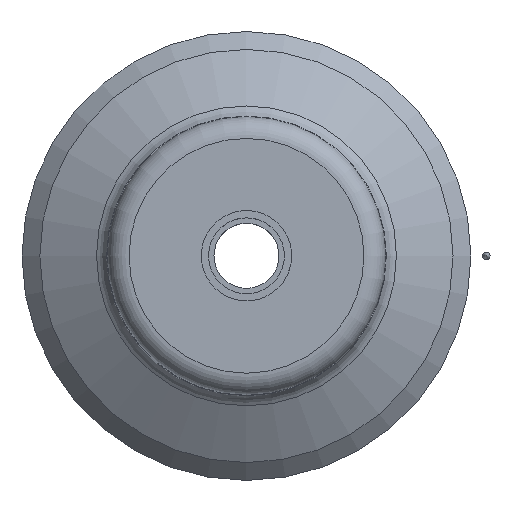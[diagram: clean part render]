
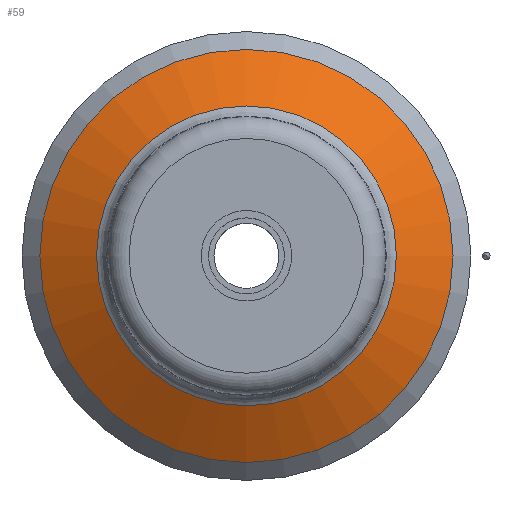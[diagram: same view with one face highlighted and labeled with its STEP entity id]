
A CAD part, top view. The second image highlights one B-rep face of the part: STEP entity #59.
In plain terms, the highlighted conical face has half-angle 60 degrees and reference radius 24.668 mm.
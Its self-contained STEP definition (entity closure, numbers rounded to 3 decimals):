
#59=ADVANCED_FACE('',(#138,#139),#140,.T.);
#138=FACE_BOUND('',#256,.T.);
#139=FACE_OUTER_BOUND('',#257,.T.);
#140=CONICAL_SURFACE('',#258,24.668,1.047);
#256=EDGE_LOOP('',(#370));
#257=EDGE_LOOP('',(#371));
#258=AXIS2_PLACEMENT_3D('',#372,#373,#374);
#370=ORIENTED_EDGE('',*,*,#522,.T.);
#371=ORIENTED_EDGE('',*,*,#523,.F.);
#372=CARTESIAN_POINT('',(0.0,0.,5.798));
#373=DIRECTION('',(0.0,0.,-1.0));
#374=DIRECTION('',(1.0,0.0,0.0));
#522=EDGE_CURVE('',#582,#582,#583,.T.);
#523=EDGE_CURVE('',#584,#584,#585,.T.);
#582=VERTEX_POINT('',#694);
#583=CIRCLE('',#695,20.75);
#584=VERTEX_POINT('',#696);
#585=CIRCLE('',#697,28.585);
#694=CARTESIAN_POINT('',(0.0,20.75,8.06));
#695=AXIS2_PLACEMENT_3D('',#806,#807,#808);
#696=CARTESIAN_POINT('',(28.585,0.,3.536));
#697=AXIS2_PLACEMENT_3D('',#809,#810,#811);
#806=CARTESIAN_POINT('',(0.0,0.,8.06));
#807=DIRECTION('',(0.0,0.,-1.0));
#808=DIRECTION('',(0.0,1.0,0.));
#809=CARTESIAN_POINT('',(0.0,0.,3.536));
#810=DIRECTION('',(0.0,0.,-1.0));
#811=DIRECTION('',(1.0,0.0,0.0));
